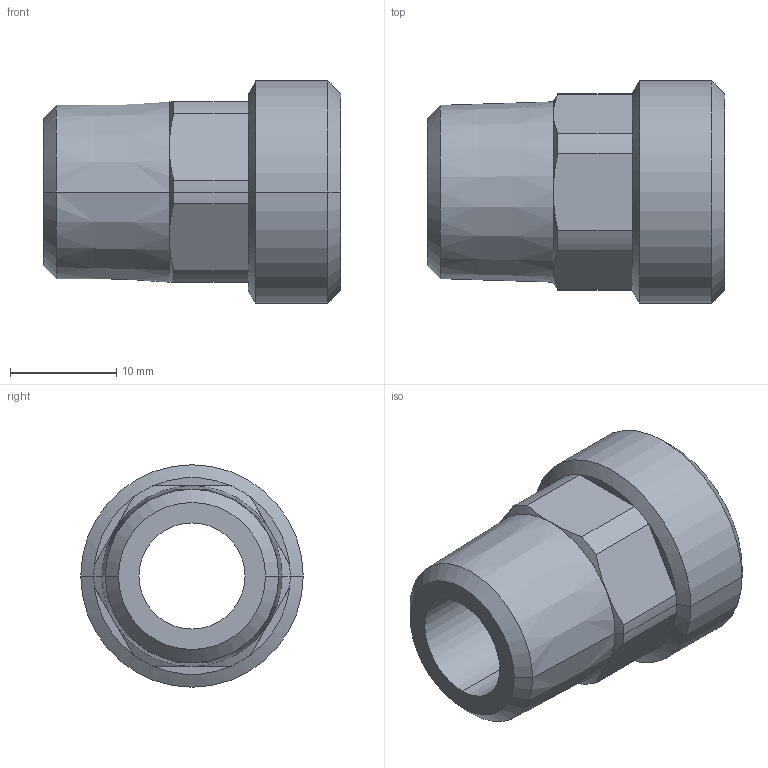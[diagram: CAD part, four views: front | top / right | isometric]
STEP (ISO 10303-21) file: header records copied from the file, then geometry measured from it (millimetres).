
FILE_DESCRIPTION((''),'2;1');
FILE_NAME('G:\BIR\Pajchrowski\projekty\8000 models\4376g\4376g STEP\14376_38-12.stp','2006-04-28T11:34:40',('pajchrowski'),(''),'Autodesk Inventor 8','Autodesk Inventor 8','');
FILE_SCHEMA(('AUTOMOTIVE_DESIGN { 1 0 10303 214 1 1 1 1 }'));
Length unit declared in the file: millimetre
Products named in the file (1): 14376_38-12
Bounding box: 28 x 20.96 x 20.96 mm (x, y, z)
Volume: 5103.6 mm3; surface area: 2881.2 mm2
Topology: 1 solids, 1 shells, 36 faces, 90 edges, 56 vertices
Faces by surface type: plane 14, cylinder 12, cone 10
Entity records: 1085 total; most frequent: CARTESIAN_POINT 219, DIRECTION 184, ORIENTED_EDGE 180, EDGE_CURVE 90, AXIS2_PLACEMENT_3D 75, VERTEX_POINT 56, CIRCLE 38, EDGE_LOOP 38
